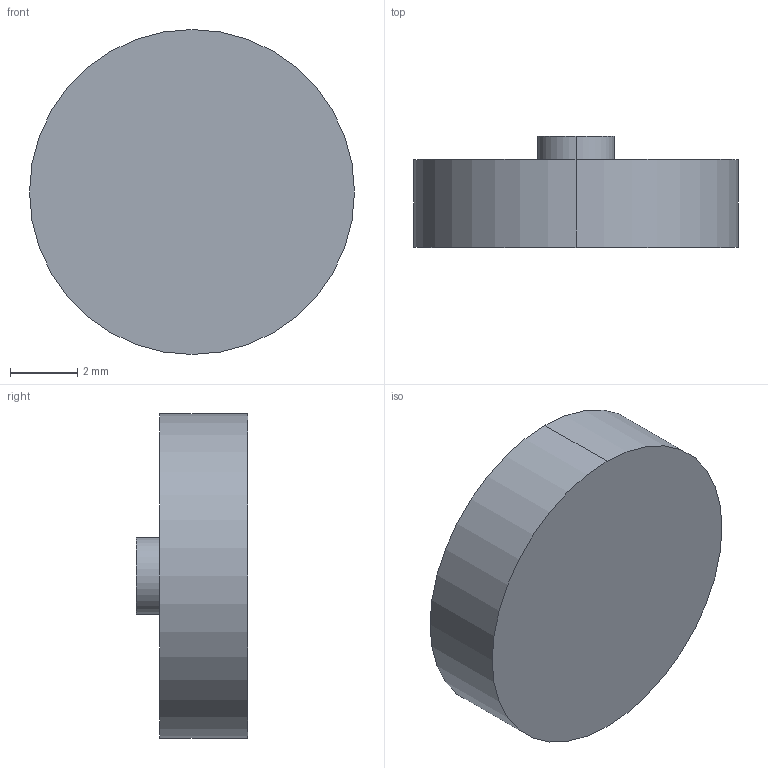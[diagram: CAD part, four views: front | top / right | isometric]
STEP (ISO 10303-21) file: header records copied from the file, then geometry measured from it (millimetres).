
FILE_DESCRIPTION (( 'STEP AP203' ), '1' );
FILE_NAME ('rsb5-150g,250g,500g,1000g.STEP', '2018-03-29T23:34:41', ( '' ), ( '' ), 'SwSTEP 2.0', 'SolidWorks 2016', '' );
FILE_SCHEMA (( 'CONFIG_CONTROL_DESIGN' ));
Length unit declared in the file: millimetre
Products named in the file (1): rsb5-150g,250g,500g,1000g
Bounding box: 9.65 x 3.3 x 9.65 mm (x, y, z)
Volume: 193.8 mm3; surface area: 230.4 mm2
Topology: 1 solids, 1 shells, 7 faces, 12 edges, 8 vertices
Faces by surface type: cylinder 4, plane 3
Entity records: 251 total; most frequent: DIRECTION 36, CARTESIAN_POINT 28, ORIENTED_EDGE 24, AXIS2_PLACEMENT_3D 16, EDGE_CURVE 12, PERSON_AND_ORGANIZATION 8, CIRCLE 8, EDGE_LOOP 8
